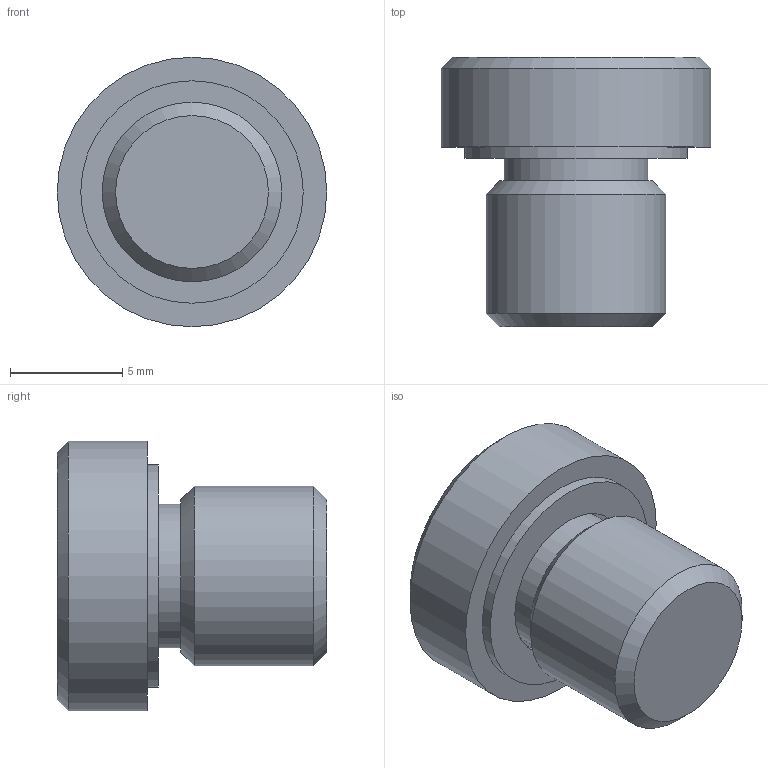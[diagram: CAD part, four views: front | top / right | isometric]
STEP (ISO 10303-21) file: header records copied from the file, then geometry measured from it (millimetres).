
FILE_DESCRIPTION( ( 'STEP AP203' ), '1' );
FILE_NAME( 'C:/Temp/Ganter_Step_05_03_2020/data/3_5/gn749/gn749_a/Threaded plug GN 749-M8x1-A.stp', '2020-03-12T13:41:32', ( 'License CC BY-ND 4.0' ), ( 'CADENAS' ), ' ', 'PARTsolutions', ' ' );
FILE_SCHEMA( ( 'CONFIG_CONTROL_DESIGN' ) );
Length unit declared in the file: millimetre
Products named in the file (1): _Threaded plug GN 749-M8x1-A
Bounding box: 12 x 12 x 12 mm (x, y, z)
Volume: 793 mm3; surface area: 644.5 mm2
Topology: 1 solids, 1 shells, 21 faces, 41 edges, 27 vertices
Faces by surface type: plane 13, cylinder 5, cone 3
Full cylindrical faces by diameter (mm): 6.4 x1, 6.8 x1, 8 x1, 9.9 x1, 12 x1
Entity records: 526 total; most frequent: DIRECTION 88, CARTESIAN_POINT 78, ORIENTED_EDGE 62, AXIS2_PLACEMENT_3D 35, EDGE_LOOP 34, EDGE_CURVE 31, FACE_OUTER_BOUND 26, VERTEX_POINT 25
